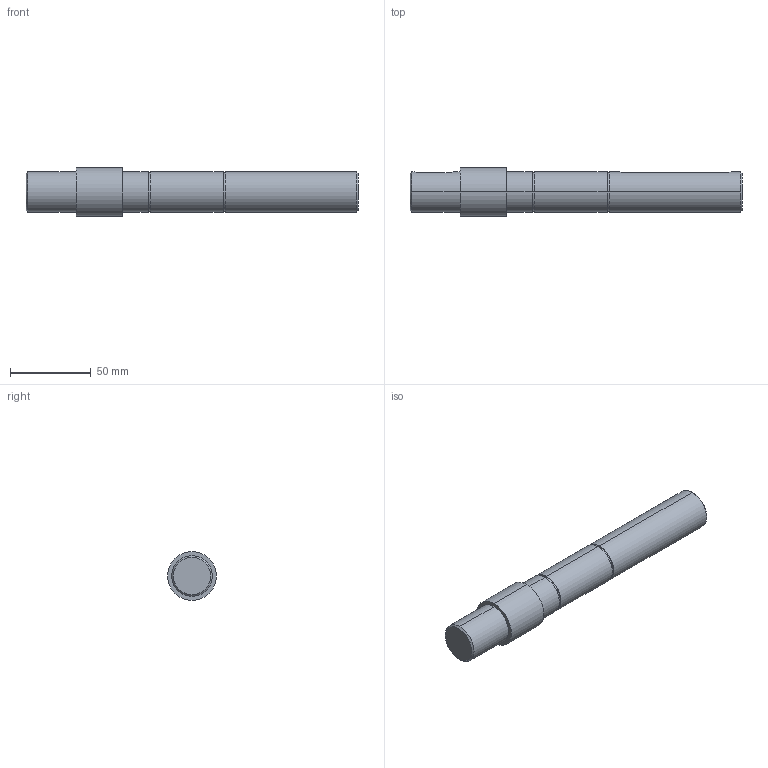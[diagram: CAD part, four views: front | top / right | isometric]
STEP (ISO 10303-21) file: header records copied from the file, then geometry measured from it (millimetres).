
FILE_DESCRIPTION (( 'STEP AP203' ), '1' );
FILE_NAME ('084.814.007.STEP', '2015-02-11T08:40:28', ( '' ), ( '' ), 'SwSTEP 2.0', 'SolidWorks 2012', '' );
FILE_SCHEMA (( 'CONFIG_CONTROL_DESIGN' ));
Length unit declared in the file: millimetre
Products named in the file (1): 084.814.007
Bounding box: 205 x 30 x 30 mm (x, y, z)
Volume: 103025.1 mm3; surface area: 19187.6 mm2
Topology: 1 solids, 1 shells, 40 faces, 84 edges, 53 vertices
Faces by surface type: cylinder 20, plane 14, cone 6
Entity records: 1267 total; most frequent: CARTESIAN_POINT 308, DIRECTION 200, ORIENTED_EDGE 164, EDGE_CURVE 82, AXIS2_PLACEMENT_3D 81, VERTEX_POINT 53, EDGE_LOOP 49, ADVANCED_FACE 40
